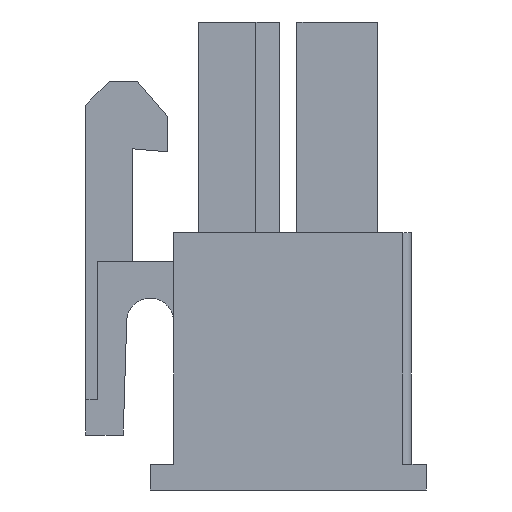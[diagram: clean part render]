
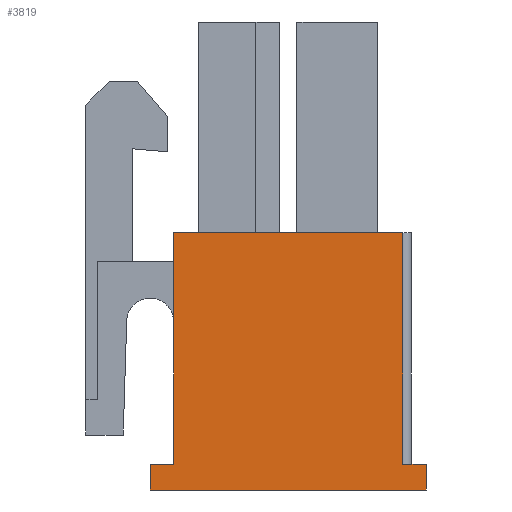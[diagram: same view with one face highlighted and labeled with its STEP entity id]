
A CAD part, left-side view. The second image highlights one B-rep face of the part: STEP entity #3819.
In plain terms, the highlighted planar face has unit normal (-1, 0, 0).
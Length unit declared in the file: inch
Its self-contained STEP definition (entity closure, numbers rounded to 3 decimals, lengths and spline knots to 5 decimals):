
#588 = EDGE_CURVE ( 'NONE', #2594, #2595, #4858, .T. ) ;
#645 = EDGE_CURVE ( 'NONE', #2651, #2594, #4976, .T. ) ;
#704 = EDGE_CURVE ( 'NONE', #2595, #2686, #5094, .T. ) ;
#791 = EDGE_CURVE ( 'NONE', #2238, #2243, #1494, .T. ) ;
#801 = EDGE_CURVE ( 'NONE', #2686, #2238, #1529, .T. ) ;
#803 = EDGE_CURVE ( 'NONE', #2220, #2651, #1533, .T. ) ;
#805 = EDGE_CURVE ( 'NONE', #2222, #2220, #1537, .T. ) ;
#806 = EDGE_CURVE ( 'NONE', #2243, #2222, #1508, .T. ) ;
#1059 = DIRECTION ( 'NONE',  ( 0., 0., -1. ) ) ;
#1060 = DIRECTION ( 'NONE',  ( 1., 0., 0. ) ) ;
#1066 = CARTESIAN_POINT ( 'NONE',  ( -0.3622, 0., 0. ) ) ;
#1069 = PLANE ( 'NONE',  #7873 ) ;
#1494 = LINE ( 'NONE', #7075, #1509 ) ;
#1508 = LINE ( 'NONE', #7068, #1539 ) ;
#1509 = VECTOR ( 'NONE', #7071, 39.37008 ) ;
#1529 = LINE ( 'NONE', #7048, #1530 ) ;
#1530 = VECTOR ( 'NONE', #7047, 39.37008 ) ;
#1533 = LINE ( 'NONE', #7044, #1534 ) ;
#1534 = VECTOR ( 'NONE', #7043, 39.37008 ) ;
#1537 = LINE ( 'NONE', #7039, #1538 ) ;
#1538 = VECTOR ( 'NONE', #7038, 39.37008 ) ;
#1539 = VECTOR ( 'NONE', #7034, 39.37008 ) ;
#2054 = FACE_OUTER_BOUND ( 'NONE', #8098, .T. ) ;
#2220 = VERTEX_POINT ( 'NONE', #5830 ) ;
#2222 = VERTEX_POINT ( 'NONE', #5829 ) ;
#2238 = VERTEX_POINT ( 'NONE', #5821 ) ;
#2243 = VERTEX_POINT ( 'NONE', #5818 ) ;
#2594 = VERTEX_POINT ( 'NONE', #5681 ) ;
#2595 = VERTEX_POINT ( 'NONE', #5680 ) ;
#2651 = VERTEX_POINT ( 'NONE', #5224 ) ;
#2686 = VERTEX_POINT ( 'NONE', #5189 ) ;
#3819 = ADVANCED_FACE ( 'NONE', ( #2054 ), #1069, .F. ) ;
#4858 = LINE ( 'NONE', #7537, #4875 ) ;
#4875 = VECTOR ( 'NONE', #7526, 39.37008 ) ;
#4976 = LINE ( 'NONE', #7410, #4989 ) ;
#4989 = VECTOR ( 'NONE', #7407, 39.37008 ) ;
#5094 = LINE ( 'NONE', #7285, #5107 ) ;
#5107 = VECTOR ( 'NONE', #7280, 39.37008 ) ;
#5189 = CARTESIAN_POINT ( 'NONE',  ( -0.3622, -0.23228, -0.7874 ) ) ;
#5224 = CARTESIAN_POINT ( 'NONE',  ( -0.3622, -0.19291, -0.35433 ) ) ;
#5680 = CARTESIAN_POINT ( 'NONE',  ( -0.3622, -0.23228, -0.74409 ) ) ;
#5681 = CARTESIAN_POINT ( 'NONE',  ( -0.3622, -0.19291, -0.74409 ) ) ;
#5818 = CARTESIAN_POINT ( 'NONE',  ( -0.3622, 0.23228, -0.74409 ) ) ;
#5821 = CARTESIAN_POINT ( 'NONE',  ( -0.3622, 0.23228, -0.7874 ) ) ;
#5829 = CARTESIAN_POINT ( 'NONE',  ( -0.3622, 0.19291, -0.74409 ) ) ;
#5830 = CARTESIAN_POINT ( 'NONE',  ( -0.3622, 0.19291, -0.35433 ) ) ;
#7034 = DIRECTION ( 'NONE',  ( 0., -1., 0. ) ) ;
#7038 = DIRECTION ( 'NONE',  ( 0., 0., 1. ) ) ;
#7039 = CARTESIAN_POINT ( 'NONE',  ( -0.3622, 0.19291, -0.74409 ) ) ;
#7043 = DIRECTION ( 'NONE',  ( 0., -1., 0. ) ) ;
#7044 = CARTESIAN_POINT ( 'NONE',  ( -0.3622, 0.19291, -0.35433 ) ) ;
#7047 = DIRECTION ( 'NONE',  ( 0., 1., 0. ) ) ;
#7048 = CARTESIAN_POINT ( 'NONE',  ( -0.3622, -0.23228, -0.7874 ) ) ;
#7068 = CARTESIAN_POINT ( 'NONE',  ( -0.3622, 0.23228, -0.74409 ) ) ;
#7071 = DIRECTION ( 'NONE',  ( 0., 0., 1. ) ) ;
#7075 = CARTESIAN_POINT ( 'NONE',  ( -0.3622, 0.23228, 0. ) ) ;
#7280 = DIRECTION ( 'NONE',  ( 0., 0., -1. ) ) ;
#7285 = CARTESIAN_POINT ( 'NONE',  ( -0.3622, -0.23228, 0. ) ) ;
#7407 = DIRECTION ( 'NONE',  ( 0., 0., -1. ) ) ;
#7410 = CARTESIAN_POINT ( 'NONE',  ( -0.3622, -0.19291, 0. ) ) ;
#7526 = DIRECTION ( 'NONE',  ( 0., -1., 0. ) ) ;
#7537 = CARTESIAN_POINT ( 'NONE',  ( -0.3622, -0.19291, -0.74409 ) ) ;
#7873 = AXIS2_PLACEMENT_3D ( 'NONE', #1066, #1060, #1059 ) ;
#8098 = EDGE_LOOP ( 'NONE', ( #8260, #8261, #8263, #8264, #8265, #8266, #8267, #8268 ) ) ;
#8260 = ORIENTED_EDGE ( 'NONE', *, *, #806, .F. ) ;
#8261 = ORIENTED_EDGE ( 'NONE', *, *, #791, .F. ) ;
#8263 = ORIENTED_EDGE ( 'NONE', *, *, #801, .F. ) ;
#8264 = ORIENTED_EDGE ( 'NONE', *, *, #704, .F. ) ;
#8265 = ORIENTED_EDGE ( 'NONE', *, *, #588, .F. ) ;
#8266 = ORIENTED_EDGE ( 'NONE', *, *, #645, .F. ) ;
#8267 = ORIENTED_EDGE ( 'NONE', *, *, #803, .F. ) ;
#8268 = ORIENTED_EDGE ( 'NONE', *, *, #805, .F. ) ;
